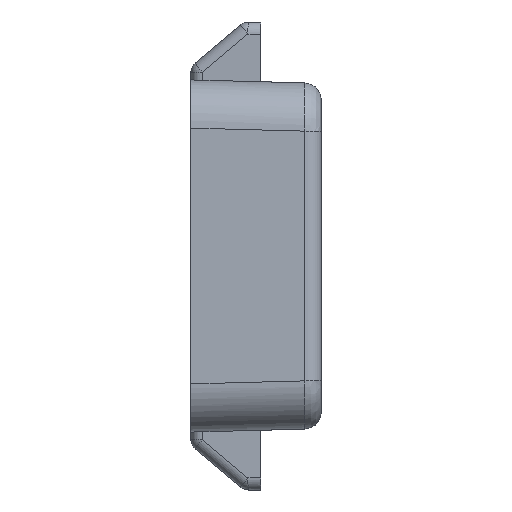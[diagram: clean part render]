
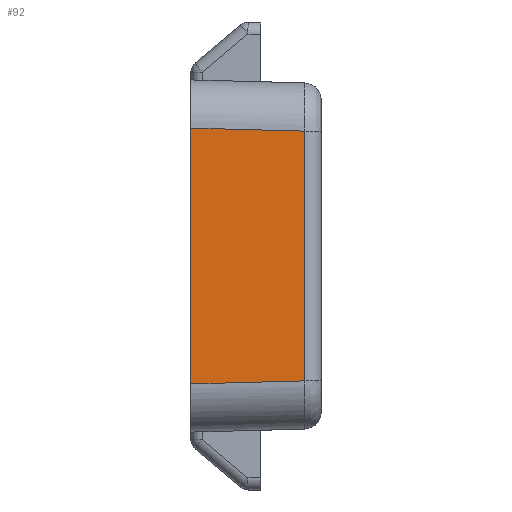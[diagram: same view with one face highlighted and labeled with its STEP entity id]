
A CAD part, left-side view. The second image highlights one B-rep face of the part: STEP entity #92.
In plain terms, the highlighted planar face has unit normal (-1, -0.026, 0).
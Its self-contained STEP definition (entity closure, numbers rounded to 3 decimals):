
#92 = ADVANCED_FACE ( 'NONE', ( #9793 ), #11442, .T. ) ;
#1217 = CARTESIAN_POINT ( 'NONE',  ( -39.938, 0.341, 2.58 ) ) ;
#2742 = DIRECTION ( 'NONE',  ( -0.026, 1., 0. ) ) ;
#2828 = VECTOR ( 'NONE', #5880, 1000. ) ;
#3315 = VERTEX_POINT ( 'NONE', #11342 ) ;
#4265 = EDGE_CURVE ( 'NONE', #7485, #10071, #10636, .T. ) ;
#4363 = LINE ( 'NONE', #15778, #6502 ) ;
#4978 = DIRECTION ( 'NONE',  ( -0.026, 0.999, 0.026 ) ) ;
#5253 = VECTOR ( 'NONE', #9434, 1000. ) ;
#5359 = CARTESIAN_POINT ( 'NONE',  ( -40., 2.7, 3.65 ) ) ;
#5554 = ORIENTED_EDGE ( 'NONE', *, *, #13405, .T. ) ;
#5880 = DIRECTION ( 'NONE',  ( 0.026, -0.999, 0.026 ) ) ;
#6502 = VECTOR ( 'NONE', #4978, 1000. ) ;
#7485 = VERTEX_POINT ( 'NONE', #16688 ) ;
#7541 = EDGE_CURVE ( 'NONE', #7485, #3315, #16783, .T. ) ;
#8391 = ORIENTED_EDGE ( 'NONE', *, *, #4265, .T. ) ;
#9434 = DIRECTION ( 'NONE',  ( 0., 0., 1. ) ) ;
#9567 = ORIENTED_EDGE ( 'NONE', *, *, #10667, .T. ) ;
#9793 = FACE_OUTER_BOUND ( 'NONE', #14143, .T. ) ;
#10071 = VERTEX_POINT ( 'NONE', #14043 ) ;
#10198 = CARTESIAN_POINT ( 'NONE',  ( -39.938, 0.341, 2.589 ) ) ;
#10636 = LINE ( 'NONE', #16326, #2828 ) ;
#10667 = EDGE_CURVE ( 'NONE', #10071, #14422, #13904, .T. ) ;
#11342 = CARTESIAN_POINT ( 'NONE',  ( -40., 2.7, 2.65 ) ) ;
#11442 = PLANE ( 'NONE',  #13646 ) ;
#12490 = DIRECTION ( 'NONE',  ( 0., 0., 1. ) ) ;
#12835 = ORIENTED_EDGE ( 'NONE', *, *, #7541, .F. ) ;
#13405 = EDGE_CURVE ( 'NONE', #14422, #3315, #4363, .T. ) ;
#13646 = AXIS2_PLACEMENT_3D ( 'NONE', #15460, #14330, #2742 ) ;
#13904 = LINE ( 'NONE', #1217, #17464 ) ;
#14043 = CARTESIAN_POINT ( 'NONE',  ( -39.938, 0.341, -2.589 ) ) ;
#14143 = EDGE_LOOP ( 'NONE', ( #8391, #9567, #5554, #12835 ) ) ;
#14330 = DIRECTION ( 'NONE',  ( -1., -0.026, 0. ) ) ;
#14422 = VERTEX_POINT ( 'NONE', #10198 ) ;
#15460 = CARTESIAN_POINT ( 'NONE',  ( -40., 2.7, 3.65 ) ) ;
#15778 = CARTESIAN_POINT ( 'NONE',  ( -40.001, 2.726, 2.651 ) ) ;
#16326 = CARTESIAN_POINT ( 'NONE',  ( -39.996, 2.535, -2.646 ) ) ;
#16688 = CARTESIAN_POINT ( 'NONE',  ( -40., 2.7, -2.65 ) ) ;
#16783 = LINE ( 'NONE', #5359, #5253 ) ;
#17464 = VECTOR ( 'NONE', #12490, 1000. ) ;
